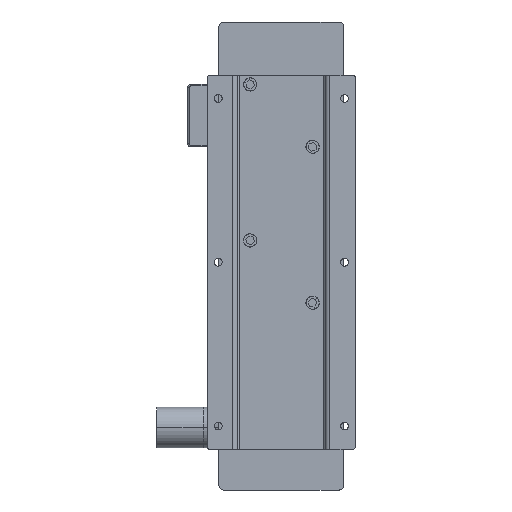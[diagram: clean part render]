
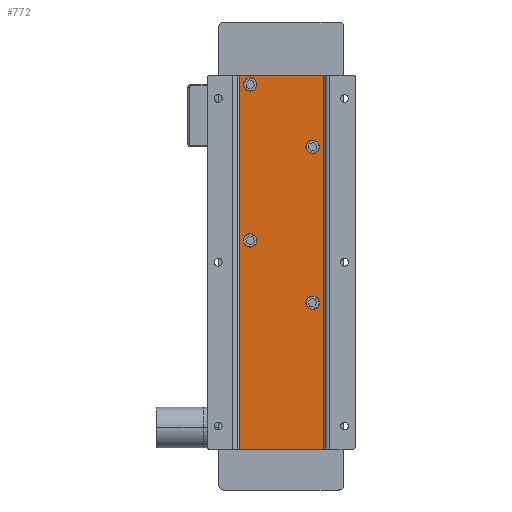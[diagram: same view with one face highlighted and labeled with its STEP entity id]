
A CAD part, left-side view. The second image highlights one B-rep face of the part: STEP entity #772.
In plain terms, the highlighted planar face has unit normal (-1, 0, 0) as drawn and (0, 0, -1) by its records, which use the part's own axes.
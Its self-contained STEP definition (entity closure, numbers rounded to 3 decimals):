
#40 = AXIS2_PLACEMENT_3D ( 'NONE', #38450, #37873, #35663 ) ;
#685 = ORIENTED_EDGE ( 'NONE', *, *, #18195, .T. ) ;
#772 = ADVANCED_FACE ( 'NONE', ( #4504, #10669, #37618, #7864, #19886 ), #32045, .F. ) ;
#962 = VECTOR ( 'NONE', #38268, 1000. ) ;
#1073 = ORIENTED_EDGE ( 'NONE', *, *, #14406, .T. ) ;
#1690 = EDGE_CURVE ( 'NONE', #14530, #2558, #17281, .T. ) ;
#1698 = ORIENTED_EDGE ( 'NONE', *, *, #3662, .F. ) ;
#1768 = EDGE_CURVE ( 'NONE', #25671, #13574, #5177, .T. ) ;
#1958 = CARTESIAN_POINT ( 'NONE',  ( 120., -27., -2. ) ) ;
#2394 = EDGE_CURVE ( 'NONE', #2558, #19034, #11318, .T. ) ;
#2558 = VERTEX_POINT ( 'NONE', #20903 ) ;
#3056 = AXIS2_PLACEMENT_3D ( 'NONE', #37312, #6584, #19197 ) ;
#3163 = EDGE_CURVE ( 'NONE', #31503, #24763, #6274, .T. ) ;
#3662 = EDGE_CURVE ( 'NONE', #11736, #14530, #25194, .T. ) ;
#3663 = DIRECTION ( 'NONE',  ( 1., 0., 0. ) ) ;
#3838 = CARTESIAN_POINT ( 'NONE',  ( 120., -27., -2. ) ) ;
#3844 = ORIENTED_EDGE ( 'NONE', *, *, #1768, .T. ) ;
#4502 = EDGE_CURVE ( 'NONE', #19034, #11736, #16065, .T. ) ;
#4504 = FACE_BOUND ( 'NONE', #18841, .T. ) ;
#4868 = DIRECTION ( 'NONE',  ( 0., 0., 1. ) ) ;
#5177 = CIRCLE ( 'NONE', #38320, 3.25 ) ;
#6274 = CIRCLE ( 'NONE', #37514, 3.25 ) ;
#6556 = CARTESIAN_POINT ( 'NONE',  ( -14., 20., -2. ) ) ;
#6584 = DIRECTION ( 'NONE',  ( 0., 0., 1. ) ) ;
#7057 = CARTESIAN_POINT ( 'NONE',  ( 22.75, -20., -2. ) ) ;
#7224 = EDGE_LOOP ( 'NONE', ( #12622, #685 ) ) ;
#7728 = VECTOR ( 'NONE', #33021, 1000. ) ;
#7864 = FACE_BOUND ( 'NONE', #8972, .T. ) ;
#8130 = DIRECTION ( 'NONE',  ( 0., 0., 1. ) ) ;
#8290 = CIRCLE ( 'NONE', #40, 3.25 ) ;
#8797 = CIRCLE ( 'NONE', #3056, 3.25 ) ;
#8972 = EDGE_LOOP ( 'NONE', ( #22617, #16670 ) ) ;
#9234 = DIRECTION ( 'NONE',  ( 1., 0., 0. ) ) ;
#9244 = CARTESIAN_POINT ( 'NONE',  ( 120., -27., -2. ) ) ;
#9436 = AXIS2_PLACEMENT_3D ( 'NONE', #14624, #29027, #38187 ) ;
#9448 = EDGE_CURVE ( 'NONE', #30455, #29267, #19679, .T. ) ;
#10669 = FACE_BOUND ( 'NONE', #20601, .T. ) ;
#10792 = CARTESIAN_POINT ( 'NONE',  ( -110.75, 20., -2. ) ) ;
#11318 = LINE ( 'NONE', #1958, #962 ) ;
#11475 = CARTESIAN_POINT ( 'NONE',  ( -120., -27., -2. ) ) ;
#11736 = VERTEX_POINT ( 'NONE', #24128 ) ;
#12015 = CARTESIAN_POINT ( 'NONE',  ( -117.25, 20., -2. ) ) ;
#12299 = AXIS2_PLACEMENT_3D ( 'NONE', #35469, #8130, #20338 ) ;
#12622 = ORIENTED_EDGE ( 'NONE', *, *, #28881, .T. ) ;
#13257 = CARTESIAN_POINT ( 'NONE',  ( -70.75, -20., -2. ) ) ;
#13574 = VERTEX_POINT ( 'NONE', #12015 ) ;
#14406 = EDGE_CURVE ( 'NONE', #13574, #25671, #37177, .T. ) ;
#14530 = VERTEX_POINT ( 'NONE', #14721 ) ;
#14624 = CARTESIAN_POINT ( 'NONE',  ( 26., -20., -2. ) ) ;
#14721 = CARTESIAN_POINT ( 'NONE',  ( -120., 27., -2. ) ) ;
#15338 = VERTEX_POINT ( 'NONE', #27745 ) ;
#15646 = DIRECTION ( 'NONE',  ( 0., 1., 0. ) ) ;
#16065 = LINE ( 'NONE', #9244, #22561 ) ;
#16295 = VERTEX_POINT ( 'NONE', #25070 ) ;
#16670 = ORIENTED_EDGE ( 'NONE', *, *, #9448, .T. ) ;
#16879 = CARTESIAN_POINT ( 'NONE',  ( 0., 0., -2. ) ) ;
#16937 = CARTESIAN_POINT ( 'NONE',  ( -77.25, -20., -2. ) ) ;
#17281 = LINE ( 'NONE', #11475, #7728 ) ;
#18195 = EDGE_CURVE ( 'NONE', #15338, #16295, #36939, .T. ) ;
#18674 = EDGE_LOOP ( 'NONE', ( #35981, #1698, #21927, #29445 ) ) ;
#18841 = EDGE_LOOP ( 'NONE', ( #3844, #1073 ) ) ;
#18842 = DIRECTION ( 'NONE',  ( 0., 0., 1. ) ) ;
#19034 = VERTEX_POINT ( 'NONE', #3838 ) ;
#19197 = DIRECTION ( 'NONE',  ( 1., 0., 0. ) ) ;
#19211 = CARTESIAN_POINT ( 'NONE',  ( 120., 27., -2. ) ) ;
#19679 = CIRCLE ( 'NONE', #9436, 3.25 ) ;
#19742 = CIRCLE ( 'NONE', #26084, 3.25 ) ;
#19886 = FACE_OUTER_BOUND ( 'NONE', #18674, .T. ) ;
#20294 = CARTESIAN_POINT ( 'NONE',  ( 29.25, -20., -2. ) ) ;
#20338 = DIRECTION ( 'NONE',  ( 1., 0., 0. ) ) ;
#20601 = EDGE_LOOP ( 'NONE', ( #23426, #35925 ) ) ;
#20903 = CARTESIAN_POINT ( 'NONE',  ( -120., -27., -2. ) ) ;
#20924 = DIRECTION ( 'NONE',  ( 1., 0., 0. ) ) ;
#21469 = EDGE_CURVE ( 'NONE', #24763, #31503, #8797, .T. ) ;
#21927 = ORIENTED_EDGE ( 'NONE', *, *, #4502, .F. ) ;
#22561 = VECTOR ( 'NONE', #15646, 1000. ) ;
#22617 = ORIENTED_EDGE ( 'NONE', *, *, #23421, .T. ) ;
#23421 = EDGE_CURVE ( 'NONE', #29267, #30455, #8290, .T. ) ;
#23426 = ORIENTED_EDGE ( 'NONE', *, *, #3163, .T. ) ;
#23923 = CARTESIAN_POINT ( 'NONE',  ( -14., 20., -2. ) ) ;
#24128 = CARTESIAN_POINT ( 'NONE',  ( 120., 27., -2. ) ) ;
#24179 = VECTOR ( 'NONE', #25394, 1000. ) ;
#24763 = VERTEX_POINT ( 'NONE', #16937 ) ;
#25070 = CARTESIAN_POINT ( 'NONE',  ( -10.75, 20., -2. ) ) ;
#25153 = DIRECTION ( 'NONE',  ( 0., 0., 1. ) ) ;
#25194 = LINE ( 'NONE', #19211, #24179 ) ;
#25236 = CARTESIAN_POINT ( 'NONE',  ( -74., -20., -2. ) ) ;
#25343 = DIRECTION ( 'NONE',  ( 1., 0., 0. ) ) ;
#25394 = DIRECTION ( 'NONE',  ( -1., 0., 0. ) ) ;
#25671 = VERTEX_POINT ( 'NONE', #10792 ) ;
#26084 = AXIS2_PLACEMENT_3D ( 'NONE', #23923, #36052, #20924 ) ;
#27745 = CARTESIAN_POINT ( 'NONE',  ( -17.25, 20., -2. ) ) ;
#28881 = EDGE_CURVE ( 'NONE', #16295, #15338, #19742, .T. ) ;
#29027 = DIRECTION ( 'NONE',  ( 0., 0., 1. ) ) ;
#29267 = VERTEX_POINT ( 'NONE', #20294 ) ;
#29322 = AXIS2_PLACEMENT_3D ( 'NONE', #6556, #25153, #25343 ) ;
#29445 = ORIENTED_EDGE ( 'NONE', *, *, #2394, .F. ) ;
#30455 = VERTEX_POINT ( 'NONE', #7057 ) ;
#31503 = VERTEX_POINT ( 'NONE', #13257 ) ;
#32045 = PLANE ( 'NONE',  #38558 ) ;
#33021 = DIRECTION ( 'NONE',  ( 0., -1., 0. ) ) ;
#33808 = CARTESIAN_POINT ( 'NONE',  ( -114., 20., -2. ) ) ;
#35027 = DIRECTION ( 'NONE',  ( 1., 0., 0. ) ) ;
#35469 = CARTESIAN_POINT ( 'NONE',  ( -114., 20., -2. ) ) ;
#35663 = DIRECTION ( 'NONE',  ( 1., 0., 0. ) ) ;
#35925 = ORIENTED_EDGE ( 'NONE', *, *, #21469, .T. ) ;
#35981 = ORIENTED_EDGE ( 'NONE', *, *, #1690, .F. ) ;
#36052 = DIRECTION ( 'NONE',  ( 0., 0., 1. ) ) ;
#36575 = DIRECTION ( 'NONE',  ( 0., 0., 1. ) ) ;
#36939 = CIRCLE ( 'NONE', #29322, 3.25 ) ;
#37177 = CIRCLE ( 'NONE', #12299, 3.25 ) ;
#37312 = CARTESIAN_POINT ( 'NONE',  ( -74., -20., -2. ) ) ;
#37514 = AXIS2_PLACEMENT_3D ( 'NONE', #25236, #18842, #3663 ) ;
#37618 = FACE_BOUND ( 'NONE', #7224, .T. ) ;
#37873 = DIRECTION ( 'NONE',  ( 0., 0., 1. ) ) ;
#38187 = DIRECTION ( 'NONE',  ( 1., 0., 0. ) ) ;
#38268 = DIRECTION ( 'NONE',  ( 1., 0., 0. ) ) ;
#38320 = AXIS2_PLACEMENT_3D ( 'NONE', #33808, #36575, #9234 ) ;
#38450 = CARTESIAN_POINT ( 'NONE',  ( 26., -20., -2. ) ) ;
#38558 = AXIS2_PLACEMENT_3D ( 'NONE', #16879, #4868, #35027 ) ;
